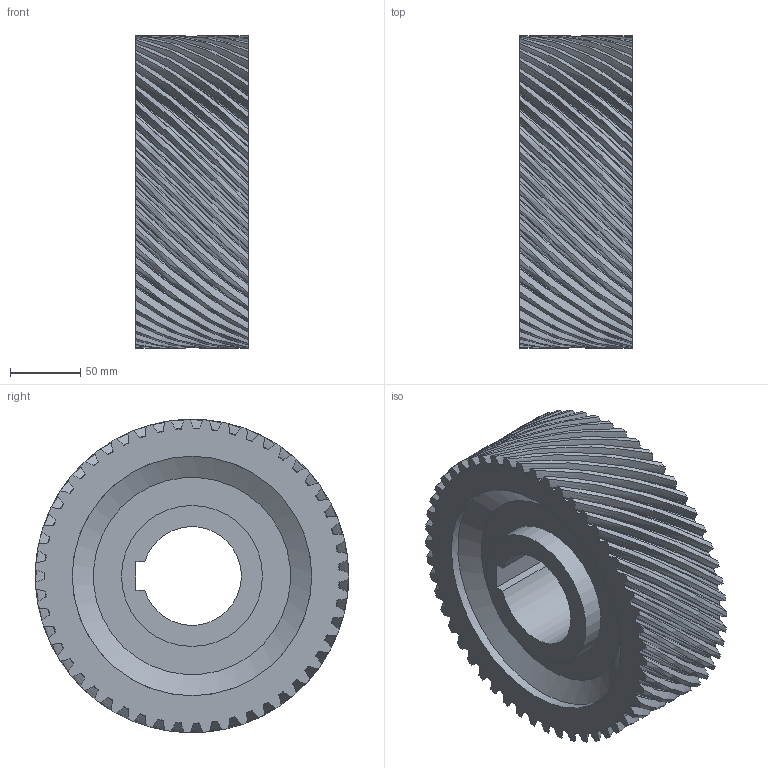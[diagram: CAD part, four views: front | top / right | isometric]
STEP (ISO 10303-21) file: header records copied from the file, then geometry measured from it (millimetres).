
FILE_DESCRIPTION(/* description */ (''),/* implementation_level */ '2;1');
FILE_NAME(/* name */ 'G:\YandexDisk\Работа\Inventor\Универ\ОАП\Лабораторные работы\ЛР6 Создание сборок\Редуктор\stp\Шестерня 1.stp',/* time_stamp */ '2023-11-17T06:38:26+03:00',/* author */ ('34740'),/* organization */ (''),/* preprocessor_version */ 'ST-DEVELOPER v18.1',/* originating_system */ 'Autodesk Inventor 2022',/* authorisation */ '');
FILE_SCHEMA (('AUTOMOTIVE_DESIGN { 1 0 10303 214 3 1 1 }'));
Products named in the file (1): Шестерня 1
Bounding box: 80 x 222.35 x 222.37 mm (x, y, z)
Volume: 2233265.7 mm3; surface area: 214350.1 mm2
Topology: 1 solids, 1 shells, 321 faces, 945 edges, 630 vertices
Faces by surface type: bspline 204, cylinder 106, plane 9, cone 2
Full cylindrical faces by diameter (mm): 100 x2, 170 x1
Entity records: 120208 total; most frequent: CARTESIAN_POINT 112699, ORIENTED_EDGE 1890, DIRECTION 1499, EDGE_CURVE 945, AXIS2_PLACEMENT_3D 742, VERTEX_POINT 630, CIRCLE 624, EDGE_LOOP 327
